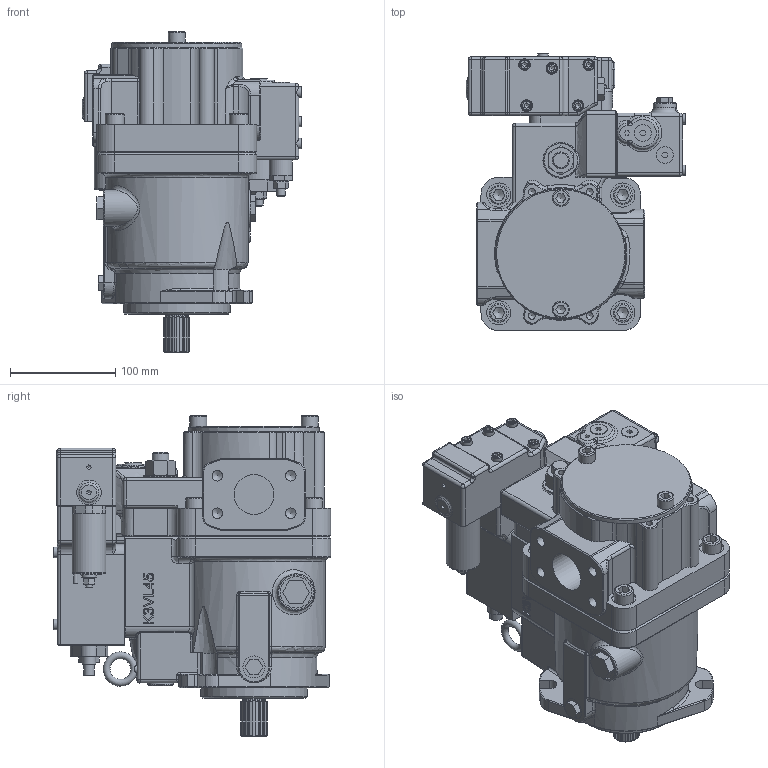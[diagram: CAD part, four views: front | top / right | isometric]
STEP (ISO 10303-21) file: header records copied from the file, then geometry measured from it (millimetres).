
FILE_DESCRIPTION((''),'2;1');
FILE_NAME('J:\Inventor\K3V, M2X\MODEL LIBRARY\K3VL45B 1NRSS L0 1-E0.stp','2008-04-07T08:50:59',('mnorman'),(''),'Autodesk Inventor 2008','Autodesk Inventor 2008','');
FILE_SCHEMA(('AUTOMOTIVE_DESIGN { 1 0 10303 214 1 1 1 1 }'));
Length unit declared in the file: millimetre
Products named in the file (1): Part5
Bounding box: 209.1 x 264 x 305 mm (x, y, z)
Volume: 6654113.9 mm3; surface area: 443205 mm2
Topology: 51 solids, 51 shells, 2003 faces, 4807 edges, 2940 vertices
Faces by surface type: plane 954, cylinder 403, bspline 341, cone 229, torus 55, sphere 21
Full cylindrical faces by diameter (mm): 6 x14, 6.5 x4, 8 x7, 9 x1, 9.5 x1, 10 x15, 11 x14, 11.4 x2, 12 x4, 12.75 x1, 13 x2, 14 x1, 16 x6, 18 x5, 21 x1, 21.3 x1, 22 x2, 22.804 x1, 24 x2, 25 x3, 30 x4, 31 x1, 32 x2, 35.5 x1, 36 x1, 38 x1, 46 x1, 75 x1, 82.55 x1, 90 x2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
Entity records: 71845 total; most frequent: CARTESIAN_POINT 27931, DIRECTION 8437, ORIENTED_EDGE 8380, EDGE_CURVE 4190, AXIS2_PLACEMENT_3D 3185, VERTEX_POINT 2717, EDGE_LOOP 2469, VECTOR 2067
